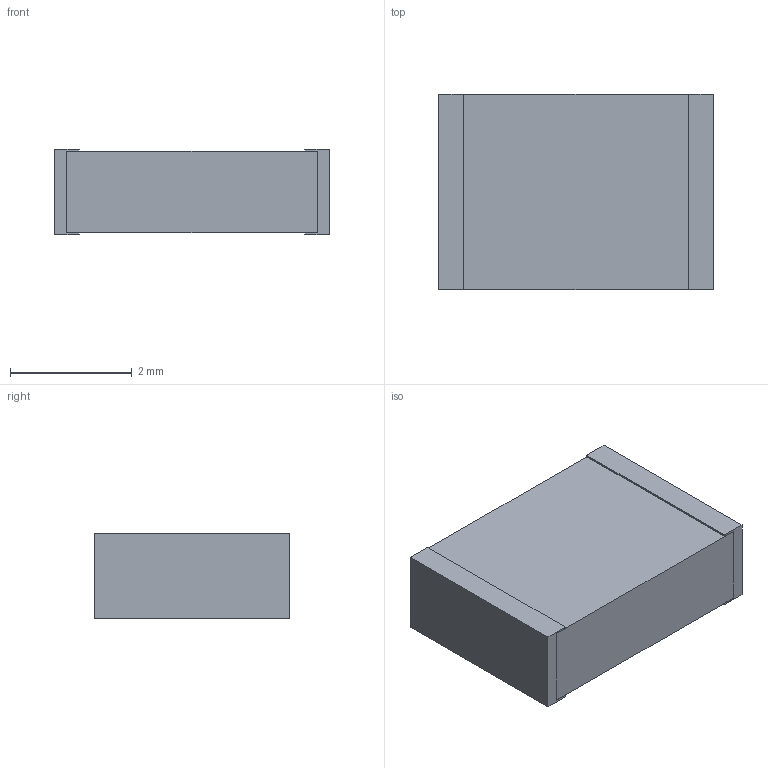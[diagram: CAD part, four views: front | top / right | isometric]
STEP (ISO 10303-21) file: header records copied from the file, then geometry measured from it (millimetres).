
FILE_DESCRIPTION(('HOOPS Exchange Step'),'2;1');
FILE_NAME('C:\Users\knoguchi\Desktop\STP\C1.stp','2021-07-20T09:41:52+09:00',('knoguchi'),('Unknown organisation'),'HOOPS Exchange 2021.1','HOOPS Exchange','Unknown authorisation');
FILE_SCHEMA( ('AP203_CONFIGURATION_CONTROLLED_3D_DESIGN_OF_MECHANICAL_PARTS_AND_ASSEMBLIES_MIM_LF') );
Length unit declared in the file: millimetre
Products named in the file (1): Export
Bounding box: 4.5 x 3.2 x 1.4 mm (x, y, z)
Volume: 19.4 mm3; surface area: 72.6 mm2
Topology: 3 solids, 3 shells, 26 faces, 60 edges, 40 vertices
Faces by surface type: plane 26
Entity records: 679 total; most frequent: CARTESIAN_POINT 187, ORIENTED_EDGE 120, B_SPLINE_CURVE_WITH_KNOTS 60, EDGE_CURVE 60, DIRECTION 54, VERTEX_POINT 40, AXIS2_PLACEMENT_3D 27, PLANE 26
